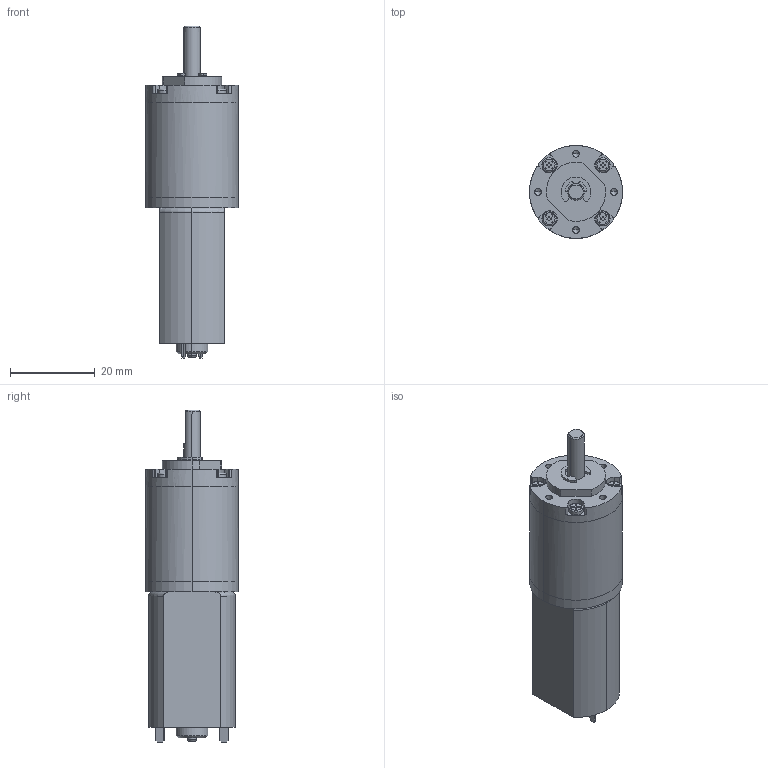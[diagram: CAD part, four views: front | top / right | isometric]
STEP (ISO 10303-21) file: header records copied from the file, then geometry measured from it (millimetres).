
FILE_DESCRIPTION((''),' ');
FILE_NAME('dsmp220_5.stp',' ',('R. Lindner'),('MSW GmbH'),' ','ACIS 14.0',' ');
FILE_SCHEMA(('automotive_design'));
Length unit declared in the file: inch
Products named in the file (4): DSMP220_5
Bounding box: 22 x 22 x 78.5 mm (x, y, z)
Volume: 22486.8 mm3; surface area: 8208.8 mm2
Topology: 4 solids, 4 shells, 357 faces, 955 edges, 610 vertices
Faces by surface type: cylinder 189, plane 125, cone 29, torus 14
Entity records: 14135 total; most frequent: DIRECTION 2080, CARTESIAN_POINT 1954, ORIENTED_EDGE 1862, EDGE_CURVE 931, AXIS2_PLACEMENT_3D 794, VERTEX_POINT 610, LINE 492, VECTOR 492
